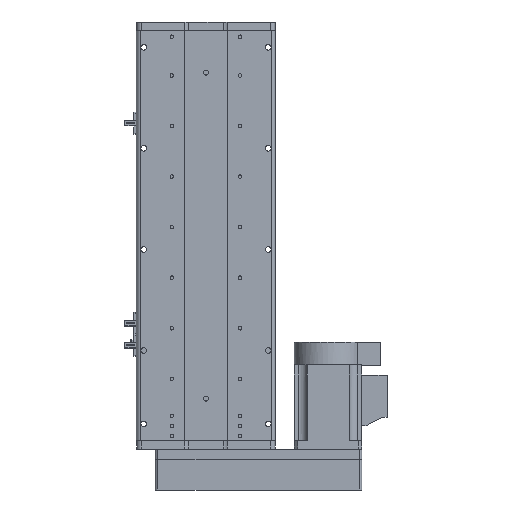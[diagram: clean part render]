
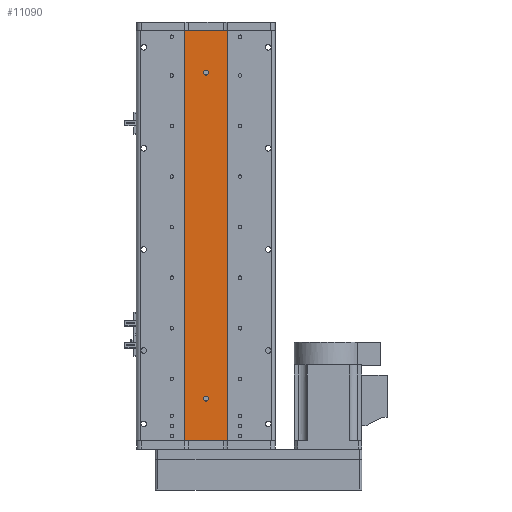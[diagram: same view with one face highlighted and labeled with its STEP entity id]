
A CAD part, front view. The second image highlights one B-rep face of the part: STEP entity #11090.
In plain terms, the highlighted planar face has unit normal (0, -1, 0).
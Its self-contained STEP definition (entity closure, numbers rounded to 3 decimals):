
#171 = EDGE_CURVE ( 'NONE', #26512, #4099, #30715, .T. ) ;
#435 = EDGE_CURVE ( 'NONE', #10084, #26512, #15941, .T. ) ;
#2217 = AXIS2_PLACEMENT_3D ( 'NONE', #57049, #43399, #34807 ) ;
#2334 = VERTEX_POINT ( 'NONE', #55681 ) ;
#3759 = EDGE_CURVE ( 'NONE', #16817, #4099, #30654, .T. ) ;
#3862 = DIRECTION ( 'NONE',  ( 0., 0., 1. ) ) ;
#4099 = VERTEX_POINT ( 'NONE', #12253 ) ;
#4931 = EDGE_CURVE ( 'NONE', #9721, #30719, #52937, .T. ) ;
#5013 = CARTESIAN_POINT ( 'NONE',  ( 0., 1., 190.5 ) ) ;
#5276 = CARTESIAN_POINT ( 'NONE',  ( 25., 1., 243.5 ) ) ;
#6256 = AXIS2_PLACEMENT_3D ( 'NONE', #7965, #39150, #12417 ) ;
#7597 = EDGE_CURVE ( 'NONE', #30719, #9721, #44880, .T. ) ;
#7965 = CARTESIAN_POINT ( 'NONE',  ( 0., 1., -193.5 ) ) ;
#9721 = VERTEX_POINT ( 'NONE', #25720 ) ;
#9783 = CARTESIAN_POINT ( 'NONE',  ( 25., 1., -243.5 ) ) ;
#10084 = VERTEX_POINT ( 'NONE', #52783 ) ;
#10562 = DIRECTION ( 'NONE',  ( 0., 1., 0. ) ) ;
#11090 = ADVANCED_FACE ( 'NONE', ( #56462, #38950, #50827 ), #52565, .F. ) ;
#11146 = CARTESIAN_POINT ( 'NONE',  ( 25., 1., 243.5 ) ) ;
#11274 = EDGE_LOOP ( 'NONE', ( #30842, #50454 ) ) ;
#12253 = CARTESIAN_POINT ( 'NONE',  ( 25., 1., -243.5 ) ) ;
#12417 = DIRECTION ( 'NONE',  ( 0., 0., 1. ) ) ;
#15941 = LINE ( 'NONE', #19212, #51582 ) ;
#16817 = VERTEX_POINT ( 'NONE', #48426 ) ;
#18795 = VERTEX_POINT ( 'NONE', #5013 ) ;
#18820 = VECTOR ( 'NONE', #49976, 1000. ) ;
#19212 = CARTESIAN_POINT ( 'NONE',  ( -25., 1., 243.5 ) ) ;
#19627 = ORIENTED_EDGE ( 'NONE', *, *, #171, .T. ) ;
#20310 = DIRECTION ( 'NONE',  ( 1., 0., 0. ) ) ;
#20556 = EDGE_LOOP ( 'NONE', ( #19627, #32750, #22210, #20714 ) ) ;
#20714 = ORIENTED_EDGE ( 'NONE', *, *, #435, .T. ) ;
#22210 = ORIENTED_EDGE ( 'NONE', *, *, #30444, .F. ) ;
#23793 = DIRECTION ( 'NONE',  ( 0., 1., 0. ) ) ;
#25720 = CARTESIAN_POINT ( 'NONE',  ( 0., 1., -196.5 ) ) ;
#25934 = ORIENTED_EDGE ( 'NONE', *, *, #7597, .T. ) ;
#26512 = VERTEX_POINT ( 'NONE', #57216 ) ;
#29248 = VECTOR ( 'NONE', #20310, 1000. ) ;
#30444 = EDGE_CURVE ( 'NONE', #10084, #16817, #55774, .T. ) ;
#30629 = DIRECTION ( 'NONE',  ( 0., 1., 0. ) ) ;
#30654 = LINE ( 'NONE', #5276, #42526 ) ;
#30715 = LINE ( 'NONE', #9783, #18820 ) ;
#30719 = VERTEX_POINT ( 'NONE', #32008 ) ;
#30842 = ORIENTED_EDGE ( 'NONE', *, *, #39901, .T. ) ;
#32008 = CARTESIAN_POINT ( 'NONE',  ( 0., 1., -190.5 ) ) ;
#32033 = DIRECTION ( 'NONE',  ( 0., 0., -1. ) ) ;
#32077 = EDGE_CURVE ( 'NONE', #2334, #18795, #52863, .T. ) ;
#32750 = ORIENTED_EDGE ( 'NONE', *, *, #3759, .F. ) ;
#34807 = DIRECTION ( 'NONE',  ( 0., 0., 1. ) ) ;
#37205 = AXIS2_PLACEMENT_3D ( 'NONE', #37280, #10562, #41810 ) ;
#37280 = CARTESIAN_POINT ( 'NONE',  ( 0., 1., -193.5 ) ) ;
#38099 = ORIENTED_EDGE ( 'NONE', *, *, #4931, .T. ) ;
#38950 = FACE_BOUND ( 'NONE', #11274, .T. ) ;
#39119 = EDGE_LOOP ( 'NONE', ( #38099, #25934 ) ) ;
#39150 = DIRECTION ( 'NONE',  ( 0., 1., 0. ) ) ;
#39448 = AXIS2_PLACEMENT_3D ( 'NONE', #50515, #23793, #55019 ) ;
#39901 = EDGE_CURVE ( 'NONE', #18795, #2334, #54899, .T. ) ;
#41810 = DIRECTION ( 'NONE',  ( 0., 0., 1. ) ) ;
#42526 = VECTOR ( 'NONE', #32033, 1000. ) ;
#43399 = DIRECTION ( 'NONE',  ( 0., 1., 0. ) ) ;
#44880 = CIRCLE ( 'NONE', #37205, 3. ) ;
#48426 = CARTESIAN_POINT ( 'NONE',  ( 25., 1., 243.5 ) ) ;
#49066 = DIRECTION ( 'NONE',  ( 0., 0., -1. ) ) ;
#49976 = DIRECTION ( 'NONE',  ( 1., 0., 0. ) ) ;
#50454 = ORIENTED_EDGE ( 'NONE', *, *, #32077, .T. ) ;
#50515 = CARTESIAN_POINT ( 'NONE',  ( 0., 1., 193.5 ) ) ;
#50827 = FACE_OUTER_BOUND ( 'NONE', #20556, .T. ) ;
#51582 = VECTOR ( 'NONE', #49066, 1000. ) ;
#52196 = AXIS2_PLACEMENT_3D ( 'NONE', #57332, #30629, #3862 ) ;
#52565 = PLANE ( 'NONE',  #2217 ) ;
#52783 = CARTESIAN_POINT ( 'NONE',  ( -25., 1., 243.5 ) ) ;
#52863 = CIRCLE ( 'NONE', #39448, 3. ) ;
#52937 = CIRCLE ( 'NONE', #6256, 3. ) ;
#54899 = CIRCLE ( 'NONE', #52196, 3. ) ;
#55019 = DIRECTION ( 'NONE',  ( 0., 0., 1. ) ) ;
#55681 = CARTESIAN_POINT ( 'NONE',  ( 0., 1., 196.5 ) ) ;
#55774 = LINE ( 'NONE', #11146, #29248 ) ;
#56462 = FACE_BOUND ( 'NONE', #39119, .T. ) ;
#57049 = CARTESIAN_POINT ( 'NONE',  ( 25., 1., 243.5 ) ) ;
#57216 = CARTESIAN_POINT ( 'NONE',  ( -25., 1., -243.5 ) ) ;
#57332 = CARTESIAN_POINT ( 'NONE',  ( 0., 1., 193.5 ) ) ;
